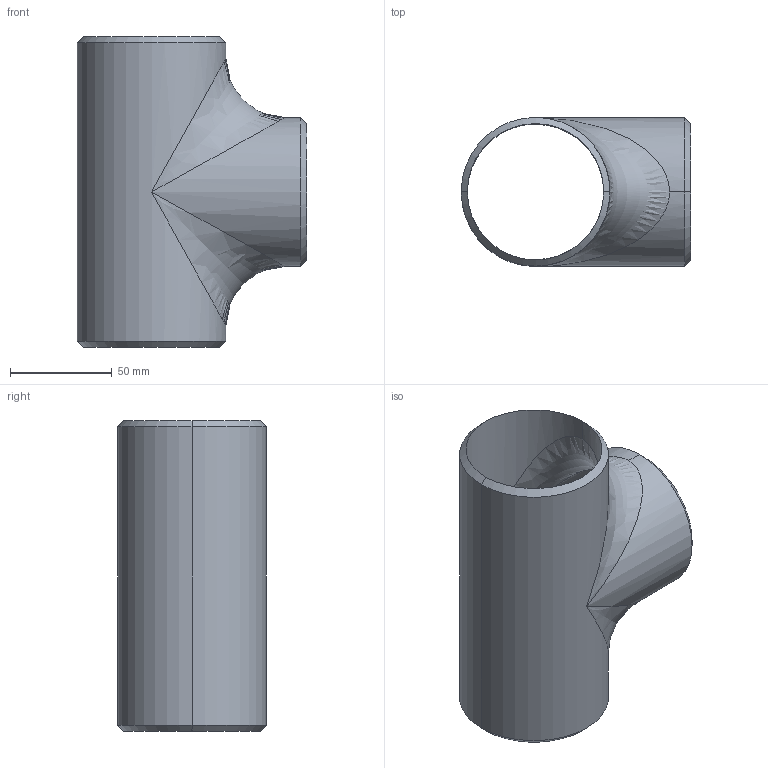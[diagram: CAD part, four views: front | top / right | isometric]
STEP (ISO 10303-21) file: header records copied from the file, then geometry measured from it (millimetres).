
FILE_DESCRIPTION (( 'STEP AP203' ), '1' );
FILE_NAME ('3D_R266_2 1-2x10S_173445158.STEP', '2024-08-23T10:59:28', ( '' ), ( '' ), 'SwSTEP 2.0', 'SolidWorks 2024', '' );
FILE_SCHEMA (( 'CONFIG_CONTROL_DESIGN' ));
Length unit declared in the file: millimetre
Products named in the file (1): 3D_R266_2 1-2x10S_173445158
Bounding box: 112.7 x 73 x 152.4 mm (x, y, z)
Volume: 118538.2 mm3; surface area: 80494.6 mm2
Topology: 1 solids, 1 shells, 21 faces, 58 edges, 30 vertices
Faces by surface type: cylinder 8, cone 6, bspline 4, plane 3
Entity records: 1363 total; most frequent: CARTESIAN_POINT 842, ORIENTED_EDGE 100, DIRECTION 88, EDGE_CURVE 50, AXIS2_PLACEMENT_3D 36, VERTEX_POINT 30, EDGE_LOOP 24, ADVANCED_FACE 21
